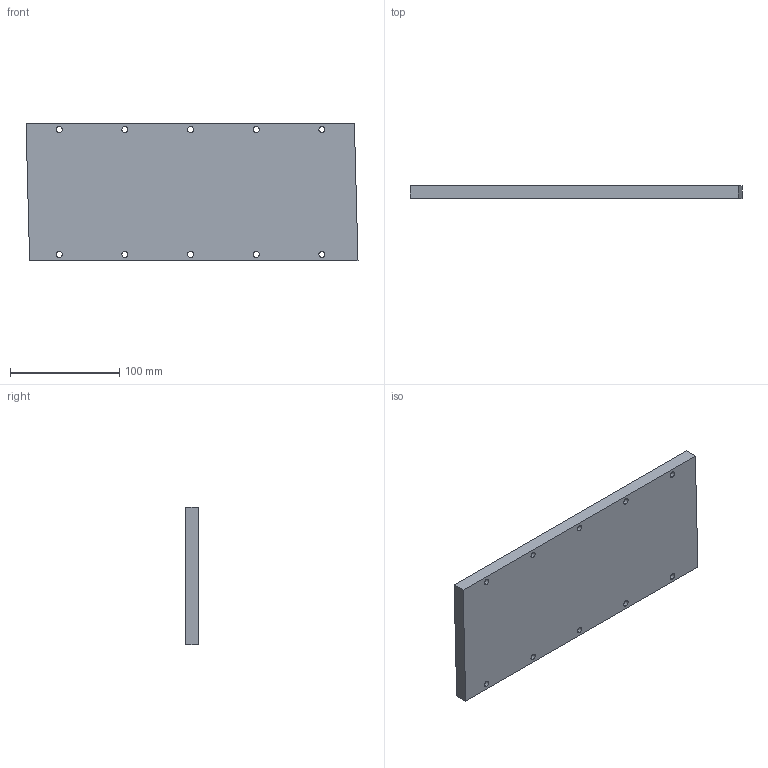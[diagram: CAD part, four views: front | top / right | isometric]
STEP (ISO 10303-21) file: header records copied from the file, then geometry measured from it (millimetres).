
FILE_DESCRIPTION (( 'STEP AP214' ), '1' );
FILE_NAME ('MK4-300.STEP', '2025-09-05T09:05:07', ( '' ), ( '' ), 'SwSTEP 2.0', 'SolidWorks 2016', '' );
FILE_SCHEMA (( 'AUTOMOTIVE_DESIGN' ));
Length unit declared in the file: millimetre
Products named in the file (1): MK4-300
Bounding box: 303.3 x 11.7 x 126 mm (x, y, z)
Volume: 436357.7 mm3; surface area: 87921.7 mm2
Topology: 1 solids, 1 shells, 56 faces, 132 edges, 88 vertices
Faces by surface type: cylinder 40, plane 16
Entity records: 1730 total; most frequent: DIRECTION 326, CARTESIAN_POINT 277, ORIENTED_EDGE 264, AXIS2_PLACEMENT_3D 137, EDGE_CURVE 132, VERTEX_POINT 88, EDGE_LOOP 86, CIRCLE 80
